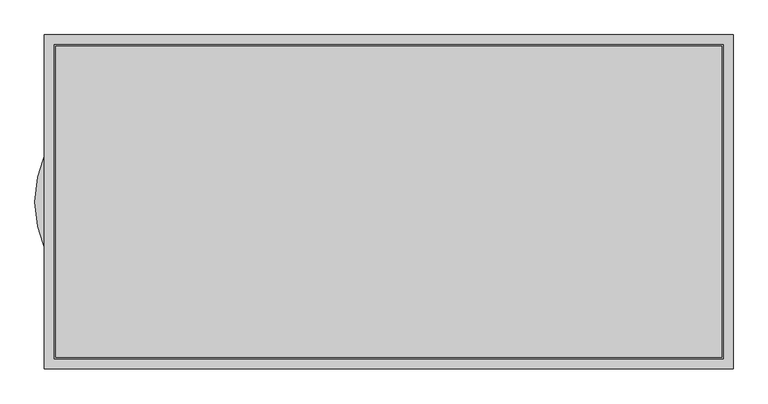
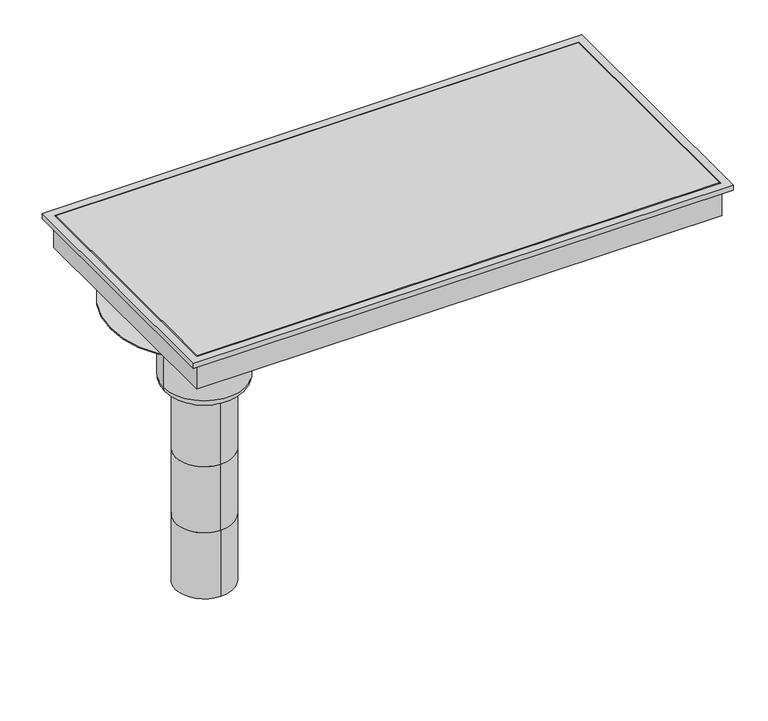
"""IFC4 building model written with IfcOpenShell, lengths in millimetres: sanitary terminal geometry, PF_ST_UN_Siphon telescopics eskis elongated hygiene first_ACO : 500 x 1000 telescopic hygienic gully 157mm outlet DN110 gully top offset."""

from ifc_helpers import new_model, si_unit, point, frame, origin, origin_2d, place, context, project, spatial, polyline, circle_curve, ellipse_curve, trimmed, segment, composite_curve, outline, extrude, faceted_brep, source, transform, mapped, element, save
from ifc_brep_helpers import plane_surface, cylinder_surface, revolved_surface, advanced_brep


def sanitary_terminal_10dd9d3a(model_context):
    return source(origin(), model_context, "Body", "SolidModel", [
        extrude(outline(composite_curve([segment(trimmed(circle_curve(origin_2d(), 71.5), [point((-71.5, 0.0))], [point((71.5, 0.0))], False, "CARTESIAN"), True, "CONTINUOUS"), segment(trimmed(circle_curve(origin_2d(), 71.5), [point((71.5, 0.0))], [point((-71.5, 0.0))], False, "CARTESIAN"), True, "CONTINUOUS")], self_intersect=False)), frame((0.0, 0.0, -240.0), z_axis=(0.0, 0.0, 1.0), x_axis=(1.0, 0.0, 0.0)), (0.0, 0.0, 1.0), 55.0),
        faceted_brep([(865.0, 250.0, -130.0), (865.0, 250.0, -120.0), (865.0, -250.0, -120.0), (865.0, -250.0, -130.0), (851.0, 236.0, -185.0), (851.0, 236.0, -130.0), (851.0, -236.0, -130.0), (851.0, -236.0, -185.0), (850.0, -235.0, -120.0), (850.0, 235.0, -120.0), (850.0, 235.0, -175.0), (850.0, -235.0, -175.0), (-165.0, -250.0, -120.0), (-165.0, -250.0, -130.0), (-151.0, -236.0, -130.0), (-151.0, -236.0, -185.0), (-150.0, -235.0, -120.0), (-150.0, -235.0, -175.0), (-165.0, 250.0, -120.0), (-165.0, 250.0, -130.0), (-151.0, 236.0, -130.0), (-151.0, 236.0, -185.0), (-150.0, 235.0, -120.0), (-150.0, 235.0, -175.0)], [[[0, 1, 2, 3]], [[4, 5, 6, 7]], [[8, 9, 10, 11]], [[3, 2, 12, 13]], [[7, 6, 14, 15]], [[16, 8, 11, 17]], [[13, 12, 18, 19]], [[15, 14, 20, 21]], [[22, 16, 17, 23]], [[2, 1, 18, 12], [9, 8, 16, 22]], [[1, 0, 19, 18]], [[0, 3, 13, 19], [6, 5, 20, 14]], [[5, 4, 21, 20]], [[4, 7, 15, 21]], [[9, 22, 23, 10]], [[11, 10, 23, 17]]]),
        extrude(outline(polyline([(848.0, 233.0), (848.0, -233.0), (-148.0, -233.0), (-148.0, 233.0), (848.0, 233.0)])), frame((0.0, 0.0, -175.0), z_axis=(0.0, 0.0, 1.0), x_axis=(1.0, 0.0, 0.0)), (0.0, 0.0, 1.0), 55.0),
        advanced_brep(
        [(0.0, -55.0, -766.0), (0.0, 55.0, -766.0), (0.0, -55.0, -632.6666667), (0.0, 55.0, -632.6666667), (0.0, -55.0, -499.3333333), (0.0, 55.0, -499.3333333), (0.0, 55.0, -366.0), (55.0, 0.0, -366.0), (0.0, -55.0, -366.0), (-55.0, 0.0, -366.0), (78.5, 0.0, -349.5), (-78.5, 0.0, -349.5), (-78.5, 0.0, -197.0), (78.5, 0.0, -197.0), (62.0, 0.0, -366.0), (-62.0, 0.0, -366.0), (-179.0, 0.0, -197.0), (179.0, 0.0, -197.0), (-179.0, 0.0, -195.0), (179.0, 0.0, -195.0)],
        [
            (0, 1, circle_curve(frame((0.0, 0.0, -766.0), z_axis=(0.0, 0.0, -1.0), x_axis=(0.0, 1.0, 0.0)), 55.0)),
            (1, 0, circle_curve(frame((0.0, 0.0, -766.0), z_axis=(0.0, 0.0, -1.0), x_axis=(0.0, 1.0, 0.0)), 55.0)),
            (0, 2),
            (2, 3, circle_curve(frame((0.0, 0.0, -632.6666667), z_axis=(0.0, 0.0, -1.0), x_axis=(0.0, 1.0, 0.0)), 55.0)),
            (3, 1),
            (3, 2, circle_curve(frame((0.0, 0.0, -632.6666667), z_axis=(0.0, 0.0, -1.0), x_axis=(0.0, 1.0, 0.0)), 55.0)),
            (4, 2),
            (3, 5),
            (5, 4, circle_curve(frame((0.0, 0.0, -499.3333333), z_axis=(0.0, 0.0, -1.0), x_axis=(1.0, 0.0, 0.0)), 55.0)),
            (4, 5, circle_curve(frame((0.0, 0.0, -499.3333333), z_axis=(0.0, 0.0, -1.0), x_axis=(-1.0, 0.0, 0.0)), 55.0)),
            (5, 6),
            (6, 7, circle_curve(frame((0.0, 0.0, -366.0), z_axis=(0.0, 0.0, -1.0), x_axis=(0.0, 1.0, 0.0)), 55.0)),
            (7, 8, circle_curve(frame((0.0, 0.0, -366.0), z_axis=(0.0, 0.0, -1.0), x_axis=(0.0, 1.0, 0.0)), 55.0)),
            (8, 4),
            (8, 9, circle_curve(frame((0.0, 0.0, -366.0), z_axis=(0.0, 0.0, -1.0), x_axis=(0.0, 1.0, 0.0)), 55.0)),
            (9, 6, circle_curve(frame((0.0, 0.0, -366.0), z_axis=(0.0, 0.0, -1.0), x_axis=(0.0, 1.0, 0.0)), 55.0)),
            (10, 11, circle_curve(frame((0.0, 0.0, -349.5), z_axis=(0.0, 0.0, 1.0), x_axis=(-1.0, 0.0, 0.0)), 78.5)),
            (11, 12),
            (12, 13, circle_curve(frame((0.0, 0.0, -197.0), z_axis=(0.0, 0.0, -1.0), x_axis=(-1.0, 0.0, 0.0)), 78.5)),
            (13, 10),
            (11, 10, circle_curve(frame((0.0, 0.0, -349.5), z_axis=(0.0, 0.0, 1.0), x_axis=(-1.0, 0.0, 0.0)), 78.5)),
            (13, 12, circle_curve(frame((0.0, 0.0, -197.0), z_axis=(0.0, 0.0, -1.0), x_axis=(-1.0, 0.0, 0.0)), 78.5)),
            (10, 14, circle_curve(frame((62.0, 0.0, -349.5), z_axis=(0.0, 1.0, 0.0), x_axis=(-1.0, 0.0, 0.0)), 16.5)),
            (14, 15, circle_curve(frame((0.0, 0.0, -366.0), z_axis=(0.0, 0.0, 1.0), x_axis=(-1.0, 0.0, 0.0)), 62.0)),
            (15, 11, circle_curve(frame((-62.0, 0.0, -349.5), z_axis=(0.0, 1.0, 0.0), x_axis=(1.0, 0.0, 0.0)), 16.5)),
            (15, 14, circle_curve(frame((0.0, 0.0, -366.0), z_axis=(0.0, 0.0, 1.0), x_axis=(-1.0, 0.0, 0.0)), 62.0)),
            (14, 7),
            (9, 15),
            (16, 17, circle_curve(frame((0.0, 0.0, -197.0), z_axis=(0.0, 0.0, -1.0), x_axis=(1.0, 0.0, 0.0)), 179.0)),
            (17, 16, circle_curve(frame((0.0, 0.0, -197.0), z_axis=(0.0, 0.0, -1.0), x_axis=(1.0, 0.0, 0.0)), 179.0)),
            (18, 19, circle_curve(frame((0.0, 0.0, -195.0), z_axis=(0.0, 0.0, 1.0), x_axis=(1.0, 0.0, 0.0)), 179.0)),
            (19, 18, circle_curve(frame((0.0, 0.0, -195.0), z_axis=(0.0, 0.0, 1.0), x_axis=(1.0, 0.0, 0.0)), 179.0)),
            (17, 19),
            (18, 16),
        ],
        [
            plane_surface(frame((0.0, 55.0, -766.0), z_axis=(0.0, 0.0, -1.0), x_axis=(1.0, 0.0, 0.0))),
            cylinder_surface(frame((0.0, 0.0, -632.6666667), z_axis=(0.0, 0.0, -1.0), x_axis=(0.0, 1.0, 0.0)), 55.0),
            cylinder_surface(frame((0.0, 0.0, -499.3333333), z_axis=(0.0, 0.0, -1.0), x_axis=(1.0, 0.0, 0.0)), 55.0),
            cylinder_surface(frame((0.0, 0.0, -499.3333333), z_axis=(0.0, 0.0, -1.0), x_axis=(-1.0, 0.0, 0.0)), 55.0),
            cylinder_surface(frame((0.0, 0.0, -366.0), z_axis=(0.0, 0.0, -1.0), x_axis=(0.0, 1.0, 0.0)), 55.0),
            cylinder_surface(frame((0.0, 0.0, -135.0), z_axis=(0.0, 0.0, -1.0), x_axis=(-1.0, 0.0, 0.0)), 78.5),
            revolved_surface(trimmed(ellipse_curve(frame((-62.0, 0.0, -349.5), z_axis=(0.0, -1.0, 0.0), x_axis=(1.0, 0.0, 0.0)), 16.5, 16.5), [point((-78.5, 0.0, -349.5))], [point((-62.0, 0.0, -366.0))], True, "CARTESIAN"), (0.0, 0.0, -135.0), (0.0, 0.0, -1.0)),
            plane_surface(frame((0.0, 0.0, -366.0), z_axis=(0.0, 0.0, -1.0), x_axis=(-1.0, 0.0, 0.0))),
            plane_surface(frame((179.0, 0.0, -197.0), z_axis=(0.0, 0.0, -1.0), x_axis=(0.0, -1.0, 0.0))),
            plane_surface(frame((179.0, 0.0, -195.0), z_axis=(0.0, 0.0, 1.0), x_axis=(0.0, 1.0, 0.0))),
            cylinder_surface(frame((0.0, 0.0, -197.0), z_axis=(0.0, 0.0, 1.0), x_axis=(1.0, 0.0, 0.0)), 179.0),
        ],
        [
            (0, [[1, 2]]),
            (1, [[-1, 3, 4, 5]]),
            (1, [[-2, -5, 6, -3]]),
            (2, [[7, -6, 8, 9]]),
            (3, [[-7, 10, -8, -4]]),
            (4, [[11, 12, 13, 14, -9]]),
            (4, [[-11, -10, -14, 15, 16]]),
            (5, [[17, 18, 19, 20]]),
            (5, [[-18, 21, -20, 22]]),
            (6, [[-17, 23, 24, 25]]),
            (6, [[-21, -25, 26, -23]]),
            (7, [[-24, 27, -12, -16, 28]]),
            (7, [[-26, -28, -15, -13, -27]]),
            (8, [[29, 30], [-19, -22]]),
            (9, [[31, 32]]),
            (10, [[-30, 33, -31, 34]]),
            (10, [[-29, -34, -32, -33]]),
        ],
    ),
    ])


if __name__ == "__main__":
    model = new_model("IFC4")
    model_context = context("Model", 3, world=origin())
    ifc_project = project(units=[si_unit("LENGTHUNIT", "METRE", prefix="MILLI")], contexts=[model_context])
    site = spatial("IfcSite", under=ifc_project)
    building = spatial("IfcBuilding", under=site)
    placement = place(None, origin())
    sanitary_terminal_shape = sanitary_terminal_10dd9d3a(model_context)
    element("IfcSanitaryTerminal", 1, ObjectType="PF_ST_UN_Siphon telescopics eskis elongated hygiene first_ACO : 500 x 1000 telescopic hygienic gully 157mm outlet DN110 gully top offset", at=placement, inside=building, context=model_context, shape_type="MappedRepresentation", body=[
        mapped(sanitary_terminal_shape, transform((0.0, 0.0, 0.0), x_axis=(1.0, 0.0, 0.0), y_axis=(0.0, 1.0, 0.0), z_axis=(0.0, 0.0, 1.0))),
    ])
    save(model, "model.ifc")
